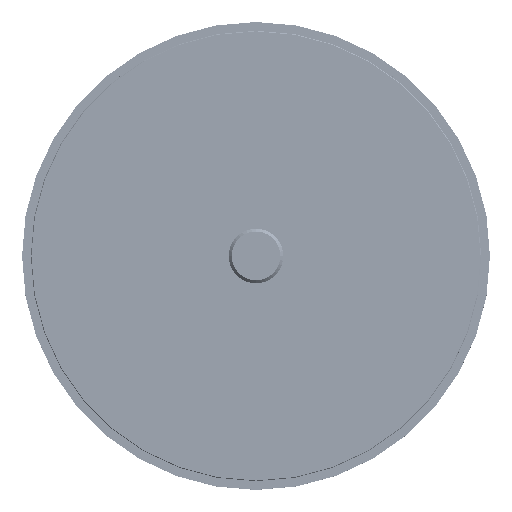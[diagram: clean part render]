
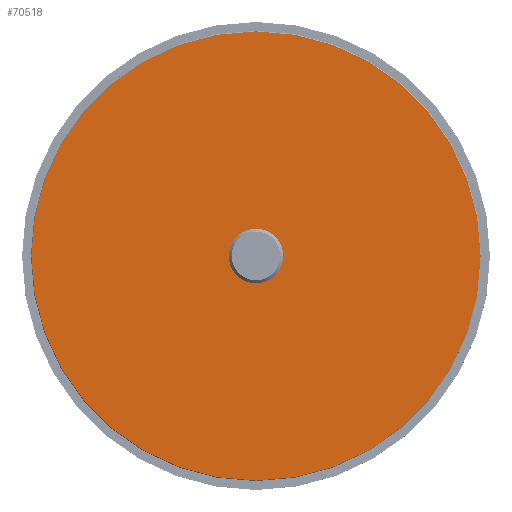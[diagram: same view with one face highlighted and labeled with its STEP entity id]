
A CAD part, top view. The second image highlights one B-rep face of the part: STEP entity #70518.
In plain terms, the highlighted planar face has unit normal (0, 0, 1).
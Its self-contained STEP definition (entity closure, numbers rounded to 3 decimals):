
#70293=CARTESIAN_POINT('',(0.,0.,1.5));
#70294=DIRECTION('',(0.,0.,1.));
#70295=DIRECTION('',(1.,0.,0.));
#70296=AXIS2_PLACEMENT_3D('',#70293,#70294,#70295);
#70298=CARTESIAN_POINT('',(0.,0.,1.5));
#70299=DIRECTION('',(0.,0.,1.));
#70300=DIRECTION('',(-1.,0.,0.));
#70301=AXIS2_PLACEMENT_3D('',#70298,#70299,#70300);
#70303=CARTESIAN_POINT('',(0.,0.,1.5));
#70304=DIRECTION('',(0.,0.,-1.));
#70305=DIRECTION('',(1.,0.,0.));
#70306=AXIS2_PLACEMENT_3D('',#70303,#70304,#70305);
#70308=CARTESIAN_POINT('',(0.,0.,1.5));
#70309=DIRECTION('',(0.,0.,-1.));
#70310=DIRECTION('',(-1.,0.,0.));
#70311=AXIS2_PLACEMENT_3D('',#70308,#70309,#70310);
#70461=CARTESIAN_POINT('',(-115.2,0.,
1.5));
#70462=VERTEX_POINT('',#70461);
#70463=CARTESIAN_POINT('',(115.2,0.,1.5));
#70464=VERTEX_POINT('',#70463);
#70465=CARTESIAN_POINT('',(-14.,0.,1.5));
#70467=VERTEX_POINT('',#70465);
#70469=CARTESIAN_POINT('',(14.,0.,1.5));
#70470=VERTEX_POINT('',#70469);
#70501=CARTESIAN_POINT('',(-138.6,138.6,1.5));
#70502=DIRECTION('',(0.,0.,-1.));
#70503=DIRECTION('',(1.,0.,0.));
#70504=AXIS2_PLACEMENT_3D('',#70501,#70502,#70503);
#70505=PLANE('',#70504);
#70507=ORIENTED_EDGE('',*,*,#70506,.F.);
#70509=ORIENTED_EDGE('',*,*,#70508,.F.);
#70510=EDGE_LOOP('',(#70507,#70509));
#70511=FACE_OUTER_BOUND('',#70510,.F.);
#70513=ORIENTED_EDGE('',*,*,#70512,.F.);
#70515=ORIENTED_EDGE('',*,*,#70514,.F.);
#70516=EDGE_LOOP('',(#70513,#70515));
#70517=FACE_BOUND('',#70516,.F.);
#70297=CIRCLE('',#70296,115.2);
#70302=CIRCLE('',#70301,115.2);
#70307=CIRCLE('',#70306,14.);
#70312=CIRCLE('',#70311,14.);
#70506=EDGE_CURVE('',#70464,#70462,#70297,.T.);
#70508=EDGE_CURVE('',#70462,#70464,#70302,.T.);
#70512=EDGE_CURVE('',#70470,#70467,#70307,.T.);
#70514=EDGE_CURVE('',#70467,#70470,#70312,.T.);
#70518=ADVANCED_FACE('',(#70511,#70517),#70505,.F.);
